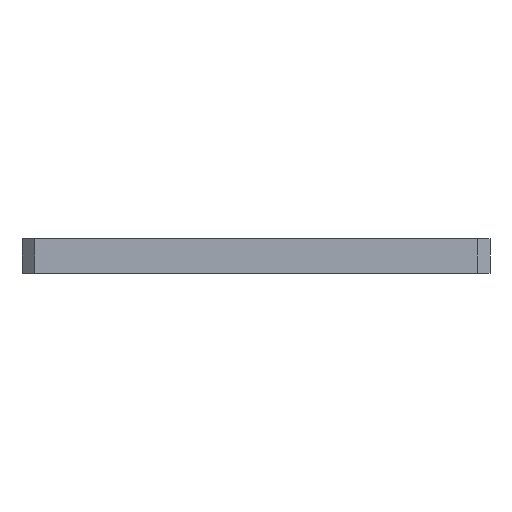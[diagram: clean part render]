
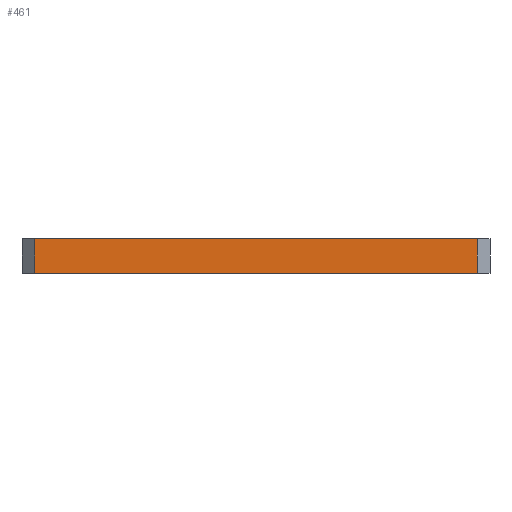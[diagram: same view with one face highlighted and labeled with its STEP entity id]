
A CAD part, front view. The second image highlights one B-rep face of the part: STEP entity #461.
In plain terms, the highlighted planar face has unit normal (0, -1, 0).
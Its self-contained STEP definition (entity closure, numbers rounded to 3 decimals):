
#434=AXIS2_PLACEMENT_3D('Plane Axis2P3D',#431,#432,#433) ;
#77=CARTESIAN_POINT('Line Origine',(55.,-150.,8.)) ;
#81=CARTESIAN_POINT('Vertex',(3.,-150.,8.)) ;
#83=CARTESIAN_POINT('Vertex',(107.,-150.,8.)) ;
#431=CARTESIAN_POINT('Axis2P3D Location',(110.,-150.,0.)) ;
#436=CARTESIAN_POINT('Line Origine',(3.,-150.,4.)) ;
#440=CARTESIAN_POINT('Vertex',(3.,-150.,0.)) ;
#443=CARTESIAN_POINT('Line Origine',(55.,-150.,0.)) ;
#447=CARTESIAN_POINT('Vertex',(107.,-150.,0.)) ;
#450=CARTESIAN_POINT('Line Origine',(107.,-150.,4.)) ;
#78=DIRECTION('Vector Direction',(-1.,0.,0.)) ;
#432=DIRECTION('Axis2P3D Direction',(0.,1.,-0.)) ;
#433=DIRECTION('Axis2P3D XDirection',(-1.,0.,0.)) ;
#437=DIRECTION('Vector Direction',(0.,0.,1.)) ;
#444=DIRECTION('Vector Direction',(-1.,0.,0.)) ;
#451=DIRECTION('Vector Direction',(0.,0.,1.)) ;
#79=VECTOR('Line Direction',#78,1.) ;
#438=VECTOR('Line Direction',#437,1.) ;
#445=VECTOR('Line Direction',#444,1.) ;
#452=VECTOR('Line Direction',#451,1.) ;
#456=ORIENTED_EDGE('',*,*,#442,.F.) ;
#457=ORIENTED_EDGE('',*,*,#449,.T.) ;
#458=ORIENTED_EDGE('',*,*,#454,.T.) ;
#459=ORIENTED_EDGE('',*,*,#85,.F.) ;
#461=ADVANCED_FACE('\X2\96F64EF651E04F554F53\X0\',(#460),#435,.F.) ;
#85=EDGE_CURVE('',#82,#84,#80,.F.) ;
#442=EDGE_CURVE('',#441,#82,#439,.T.) ;
#449=EDGE_CURVE('',#441,#448,#446,.F.) ;
#454=EDGE_CURVE('',#448,#84,#453,.T.) ;
#455=EDGE_LOOP('',(#456,#457,#458,#459)) ;
#460=FACE_OUTER_BOUND('',#455,.T.) ;
#80=LINE('Line',#77,#79) ;
#439=LINE('Line',#436,#438) ;
#446=LINE('Line',#443,#445) ;
#453=LINE('Line',#450,#452) ;
#435=PLANE('',#434) ;
#82=VERTEX_POINT('',#81) ;
#84=VERTEX_POINT('',#83) ;
#441=VERTEX_POINT('',#440) ;
#448=VERTEX_POINT('',#447) ;
